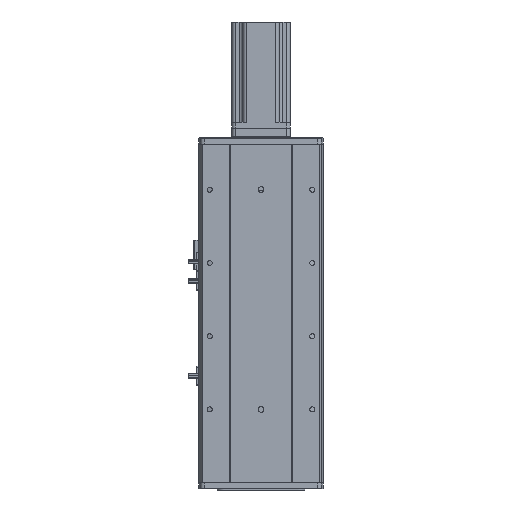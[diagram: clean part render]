
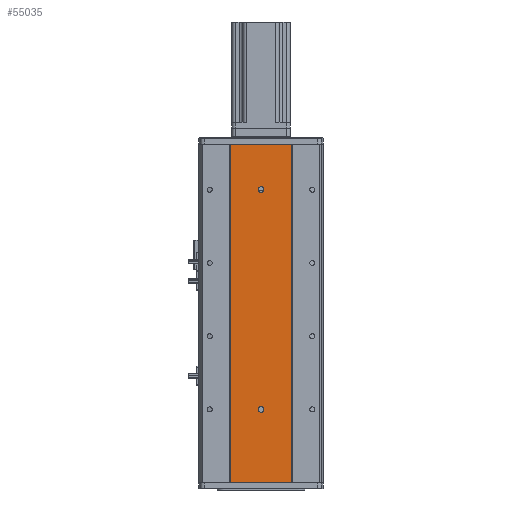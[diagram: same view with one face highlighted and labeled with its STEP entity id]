
A CAD part, front view. The second image highlights one B-rep face of the part: STEP entity #55035.
In plain terms, the highlighted planar face has unit normal (0, -1, 0).
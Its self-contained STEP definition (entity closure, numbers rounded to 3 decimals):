
#2185 = AXIS2_PLACEMENT_3D ( 'NONE', #63260, #63223, #63222 ) ;
#2228 = AXIS2_PLACEMENT_3D ( 'NONE', #14572, #14577, #14592 ) ;
#2505 = AXIS2_PLACEMENT_3D ( 'NONE', #55820, #55850, #55819 ) ;
#2561 = AXIS2_PLACEMENT_3D ( 'NONE', #55768, #55775, #55769 ) ;
#4003 = CIRCLE ( 'NONE', #2228, 4. ) ;
#4246 = CIRCLE ( 'NONE', #2185, 4. ) ;
#5460 = VERTEX_POINT ( 'NONE', #25729 ) ;
#5517 = VERTEX_POINT ( 'NONE', #25776 ) ;
#5570 = VERTEX_POINT ( 'NONE', #24876 ) ;
#5622 = VERTEX_POINT ( 'NONE', #25035 ) ;
#6902 = DIRECTION ( 'NONE',  ( 1., 0., 0. ) ) ;
#6906 = CARTESIAN_POINT ( 'NONE',  ( 5085.384, 335.574, 462. ) ) ;
#7991 = VECTOR ( 'NONE', #6902, 1000. ) ;
#8013 = LINE ( 'NONE', #6906, #7991 ) ;
#8236 = LINE ( 'NONE', #55570, #8264 ) ;
#8264 = VECTOR ( 'NONE', #55598, 1000. ) ;
#8283 = LINE ( 'NONE', #55712, #8345 ) ;
#8290 = LINE ( 'NONE', #55685, #8322 ) ;
#8322 = VECTOR ( 'NONE', #55659, 1000. ) ;
#8345 = VECTOR ( 'NONE', #55723, 1000. ) ;
#8366 = CIRCLE ( 'NONE', #2505, 4. ) ;
#8401 = CIRCLE ( 'NONE', #2561, 4. ) ;
#9903 = CARTESIAN_POINT ( 'NONE',  ( 5085.384, 335.574, 0. ) ) ;
#10024 = CARTESIAN_POINT ( 'NONE',  ( 5168.555, 335.574, 0. ) ) ;
#14572 = CARTESIAN_POINT ( 'NONE',  ( 5126.969, 335.574, 100. ) ) ;
#14577 = DIRECTION ( 'NONE',  ( 0., 1., 0. ) ) ;
#14592 = DIRECTION ( 'NONE',  ( -1., 0., 0. ) ) ;
#18336 = EDGE_CURVE ( 'NONE', #5460, #5622, #4003, .T. ) ;
#18404 = EDGE_CURVE ( 'NONE', #5517, #5570, #4246, .T. ) ;
#18925 = EDGE_CURVE ( 'NONE', #22976, #22968, #8013, .T. ) ;
#19087 = EDGE_CURVE ( 'NONE', #23032, #23096, #8236, .T. ) ;
#19115 = EDGE_CURVE ( 'NONE', #22976, #23032, #8290, .T. ) ;
#19129 = EDGE_CURVE ( 'NONE', #22968, #23096, #8283, .T. ) ;
#19170 = EDGE_CURVE ( 'NONE', #5570, #5517, #8401, .T. ) ;
#19174 = EDGE_CURVE ( 'NONE', #5622, #5460, #8366, .T. ) ;
#22968 = VERTEX_POINT ( 'NONE', #56139 ) ;
#22976 = VERTEX_POINT ( 'NONE', #56112 ) ;
#23032 = VERTEX_POINT ( 'NONE', #9903 ) ;
#23096 = VERTEX_POINT ( 'NONE', #10024 ) ;
#24876 = CARTESIAN_POINT ( 'NONE',  ( 5126.969, 335.574, 404. ) ) ;
#25035 = CARTESIAN_POINT ( 'NONE',  ( 5126.969, 335.574, 104. ) ) ;
#25729 = CARTESIAN_POINT ( 'NONE',  ( 5126.969, 335.574, 96. ) ) ;
#25776 = CARTESIAN_POINT ( 'NONE',  ( 5126.969, 335.574, 396. ) ) ;
#46008 = FACE_BOUND ( 'NONE', #59233, .T. ) ;
#46071 = FACE_BOUND ( 'NONE', #59456, .T. ) ;
#46084 = FACE_OUTER_BOUND ( 'NONE', #59201, .T. ) ;
#47127 = CARTESIAN_POINT ( 'NONE',  ( 5085.384, 335.574, 462. ) ) ;
#47130 = DIRECTION ( 'NONE',  ( 0., 1., 0. ) ) ;
#47146 = PLANE ( 'NONE',  #48420 ) ;
#47169 = DIRECTION ( 'NONE',  ( -1., 0., 0. ) ) ;
#48420 = AXIS2_PLACEMENT_3D ( 'NONE', #47127, #47130, #47169 ) ;
#55035 = ADVANCED_FACE ( 'NONE', ( #46008, #46071, #46084 ), #47146, .F. ) ;
#55570 = CARTESIAN_POINT ( 'NONE',  ( 5085.384, 335.574, 0. ) ) ;
#55598 = DIRECTION ( 'NONE',  ( 1., 0., 0. ) ) ;
#55659 = DIRECTION ( 'NONE',  ( 0., 0., -1. ) ) ;
#55685 = CARTESIAN_POINT ( 'NONE',  ( 5085.384, 335.574, 462. ) ) ;
#55712 = CARTESIAN_POINT ( 'NONE',  ( 5168.555, 335.574, 462. ) ) ;
#55723 = DIRECTION ( 'NONE',  ( 0., 0., -1. ) ) ;
#55768 = CARTESIAN_POINT ( 'NONE',  ( 5126.969, 335.574, 400. ) ) ;
#55769 = DIRECTION ( 'NONE',  ( -1., 0., 0. ) ) ;
#55775 = DIRECTION ( 'NONE',  ( 0., 1., 0. ) ) ;
#55819 = DIRECTION ( 'NONE',  ( -1., 0., 0. ) ) ;
#55820 = CARTESIAN_POINT ( 'NONE',  ( 5126.969, 335.574, 100. ) ) ;
#55850 = DIRECTION ( 'NONE',  ( 0., 1., 0. ) ) ;
#56112 = CARTESIAN_POINT ( 'NONE',  ( 5085.384, 335.574, 462. ) ) ;
#56139 = CARTESIAN_POINT ( 'NONE',  ( 5168.555, 335.574, 462. ) ) ;
#56420 = ORIENTED_EDGE ( 'NONE', *, *, #19129, .F. ) ;
#56428 = ORIENTED_EDGE ( 'NONE', *, *, #19170, .T. ) ;
#56475 = ORIENTED_EDGE ( 'NONE', *, *, #18925, .F. ) ;
#56482 = ORIENTED_EDGE ( 'NONE', *, *, #19087, .T. ) ;
#56493 = ORIENTED_EDGE ( 'NONE', *, *, #18404, .T. ) ;
#56511 = ORIENTED_EDGE ( 'NONE', *, *, #19115, .T. ) ;
#56515 = ORIENTED_EDGE ( 'NONE', *, *, #18336, .T. ) ;
#56540 = ORIENTED_EDGE ( 'NONE', *, *, #19174, .T. ) ;
#59201 = EDGE_LOOP ( 'NONE', ( #56482, #56420, #56475, #56511 ) ) ;
#59233 = EDGE_LOOP ( 'NONE', ( #56493, #56428 ) ) ;
#59456 = EDGE_LOOP ( 'NONE', ( #56515, #56540 ) ) ;
#63222 = DIRECTION ( 'NONE',  ( -1., 0., 0. ) ) ;
#63223 = DIRECTION ( 'NONE',  ( 0., 1., 0. ) ) ;
#63260 = CARTESIAN_POINT ( 'NONE',  ( 5126.969, 335.574, 400. ) ) ;
